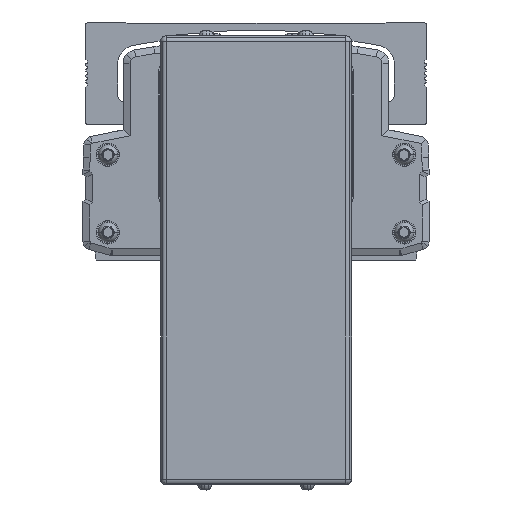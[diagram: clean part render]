
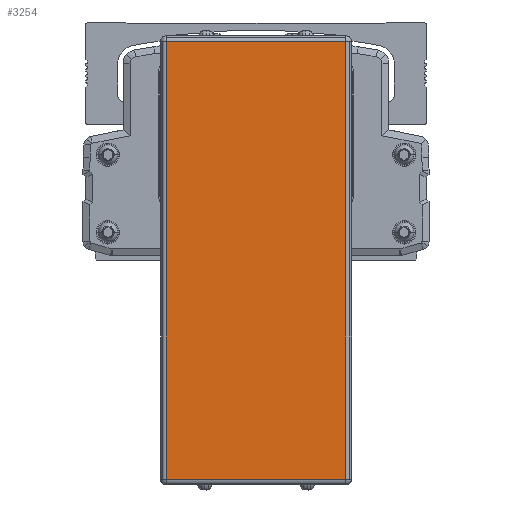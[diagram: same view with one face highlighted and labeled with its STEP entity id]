
A CAD part, front view. The second image highlights one B-rep face of the part: STEP entity #3254.
In plain terms, the highlighted planar face has unit normal (0, -1, 0).
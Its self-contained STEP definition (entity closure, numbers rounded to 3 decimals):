
#3254=ADVANCED_FACE('',(#8078),#8079,.T.);
#8078=FACE_OUTER_BOUND('',#15197,.T.);
#8079=PLANE('',#15198);
#15197=EDGE_LOOP('',(#25934,#25935,#25936,#25937));
#15198=AXIS2_PLACEMENT_3D('',#25938,#25939,#25940);
#25934=ORIENTED_EDGE('',*,*,#43505,.F.);
#25935=ORIENTED_EDGE('',*,*,#43506,.F.);
#25936=ORIENTED_EDGE('',*,*,#43507,.F.);
#25937=ORIENTED_EDGE('',*,*,#43282,.F.);
#25938=CARTESIAN_POINT('',(-299.996,-213.778,-49.1));
#25939=DIRECTION('',(0.,-1.0,0.));
#25940=DIRECTION('',(1.0,0.,0.));
#43282=EDGE_CURVE('',#52819,#52821,#52822,.T.);
#43505=EDGE_CURVE('',#53163,#52819,#53164,.T.);
#43506=EDGE_CURVE('',#53165,#53163,#53166,.T.);
#43507=EDGE_CURVE('',#52821,#53165,#53167,.T.);
#52819=VERTEX_POINT('',#65996);
#52821=VERTEX_POINT('',#65998);
#52822=LINE('',#65999,#66000);
#53163=VERTEX_POINT('',#66592);
#53164=LINE('',#66593,#66594);
#53165=VERTEX_POINT('',#66595);
#53166=LINE('',#66596,#66597);
#53167=LINE('',#66598,#66599);
#65996=CARTESIAN_POINT('',(-267.496,-213.778,-128.2));
#65998=CARTESIAN_POINT('',(-332.496,-213.778,-128.2));
#65999=CARTESIAN_POINT('',(-299.996,-213.778,-128.2));
#66000=VECTOR('',#78989,10.0);
#66592=CARTESIAN_POINT('',(-267.496,-213.778,30.));
#66593=CARTESIAN_POINT('',(-267.496,-213.778,-49.1));
#66594=VECTOR('',#79229,10.0);
#66595=CARTESIAN_POINT('',(-332.496,-213.778,30.));
#66596=CARTESIAN_POINT('',(-299.996,-213.778,30.));
#66597=VECTOR('',#79230,10.0);
#66598=CARTESIAN_POINT('',(-332.496,-213.778,-49.1));
#66599=VECTOR('',#79231,10.0);
#78989=DIRECTION('',(-1.0,0.,0.));
#79229=DIRECTION('',(0.0,0.,-1.0));
#79230=DIRECTION('',(1.0,0.,0.));
#79231=DIRECTION('',(0.0,0.,1.0));
